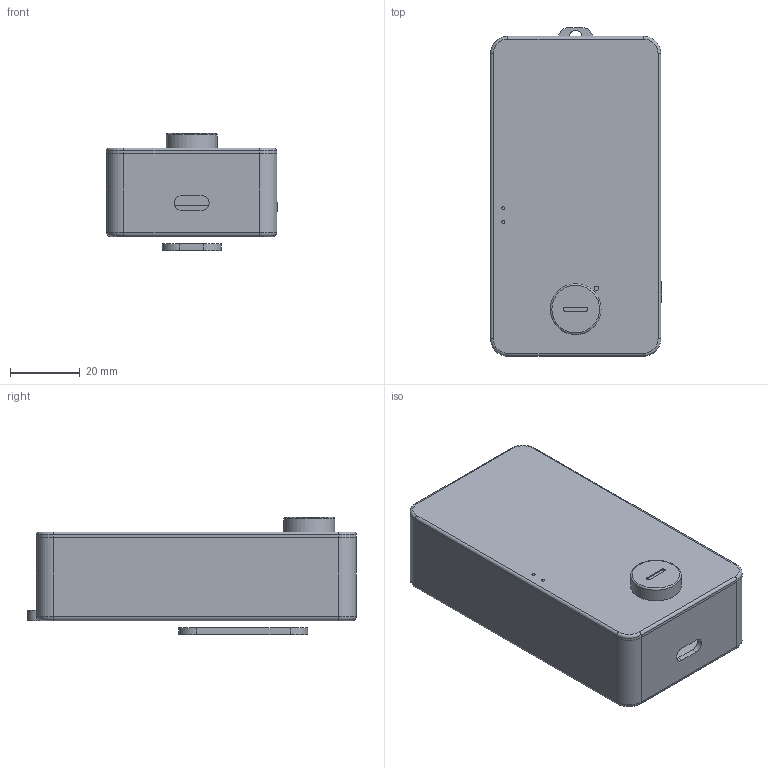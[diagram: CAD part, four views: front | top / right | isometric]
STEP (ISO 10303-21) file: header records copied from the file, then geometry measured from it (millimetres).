
FILE_DESCRIPTION(('Open CASCADE Model'),'2;1');
FILE_NAME('Open CASCADE Shape Model','2026-09-08T13:57:05',('Author'),( 'Open CASCADE'),'Open CASCADE STEP processor 7.9','Open CASCADE 7.9' ,'Unknown');
FILE_SCHEMA(('AUTOMOTIVE_DESIGN { 1 0 10303 214 1 1 1 1 }'));
Length unit declared in the file: millimetre
Products named in the file (1): COMPOUND
Bounding box: 49.2 x 94.5 x 33.7 mm (x, y, z)
Volume: 33441.4 mm3; surface area: 44349.2 mm2
Topology: 9 solids, 9 shells, 394 faces, 985 edges, 650 vertices
Faces by surface type: plane 211, cylinder 171, torus 9, bspline 3
Full cylindrical faces by diameter (mm): 0.9 x4, 1 x45, 1.3 x1, 1.4 x4, 1.6 x6, 1.8 x2, 2.2 x6, 2.4 x2, 3.6 x4, 4 x2, 4.2 x4, 4.6 x4, 6.3 x4, 9 x1, 11 x2, 11.5 x1, 14.6 x1
Entity records: 28478 total; most frequent: CARTESIAN_POINT 8529, DIRECTION 3669, ORIENTED_EDGE 1970, PCURVE 1970, DEFINITIONAL_REPRESENTATION 1970, LINE 1877, VECTOR 1877, EDGE_CURVE 985
